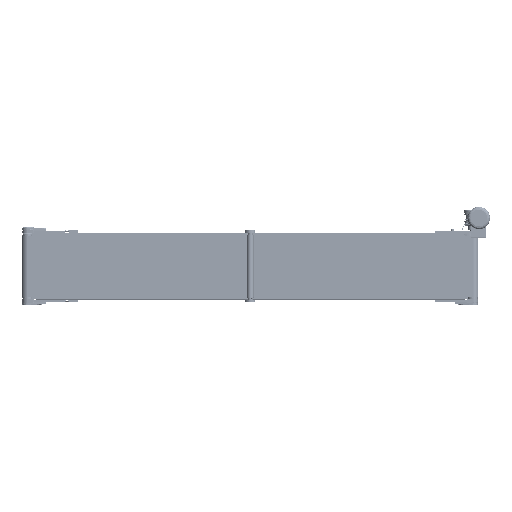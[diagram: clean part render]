
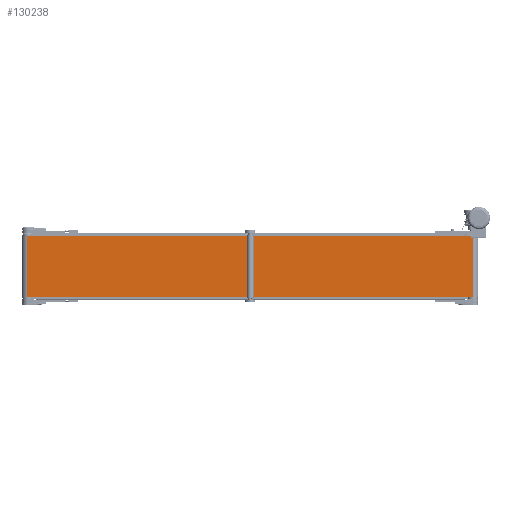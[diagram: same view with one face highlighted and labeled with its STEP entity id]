
A CAD part, front view. The second image highlights one B-rep face of the part: STEP entity #130238.
In plain terms, the highlighted planar face has unit normal (0, -1, 0).
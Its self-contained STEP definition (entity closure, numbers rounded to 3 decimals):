
#2149 = VERTEX_POINT ( 'NONE', #135226 ) ;
#6905 = PLANE ( 'NONE',  #81599 ) ;
#29272 = LINE ( 'NONE', #58506, #143280 ) ;
#30676 = EDGE_CURVE ( 'NONE', #57233, #75395, #29272, .T. ) ;
#32887 = CARTESIAN_POINT ( 'NONE',  ( -1100., -27., -150. ) ) ;
#33544 = VERTEX_POINT ( 'NONE', #112748 ) ;
#34562 = DIRECTION ( 'NONE',  ( 0., 1., 0. ) ) ;
#36317 = EDGE_CURVE ( 'NONE', #57233, #33544, #75444, .T. ) ;
#38034 = VECTOR ( 'NONE', #95184, 1000. ) ;
#48688 = DIRECTION ( 'NONE',  ( 1., 0., 0. ) ) ;
#57233 = VERTEX_POINT ( 'NONE', #69151 ) ;
#57860 = FACE_OUTER_BOUND ( 'NONE', #134316, .T. ) ;
#58506 = CARTESIAN_POINT ( 'NONE',  ( -1100., -27., 150. ) ) ;
#60543 = EDGE_CURVE ( 'NONE', #33544, #2149, #107289, .T. ) ;
#69151 = CARTESIAN_POINT ( 'NONE',  ( -1100., -27., 150. ) ) ;
#73312 = VECTOR ( 'NONE', #48688, 1000. ) ;
#75395 = VERTEX_POINT ( 'NONE', #132250 ) ;
#75444 = LINE ( 'NONE', #168706, #73312 ) ;
#81599 = AXIS2_PLACEMENT_3D ( 'NONE', #153694, #34562, #98442 ) ;
#82930 = ORIENTED_EDGE ( 'NONE', *, *, #149292, .T. ) ;
#95184 = DIRECTION ( 'NONE',  ( 0., 0., -1. ) ) ;
#95293 = ORIENTED_EDGE ( 'NONE', *, *, #60543, .F. ) ;
#98442 = DIRECTION ( 'NONE',  ( 0., 0., 1. ) ) ;
#107289 = LINE ( 'NONE', #160820, #38034 ) ;
#107799 = DIRECTION ( 'NONE',  ( 0., 0., -1. ) ) ;
#111726 = ORIENTED_EDGE ( 'NONE', *, *, #30676, .T. ) ;
#112252 = DIRECTION ( 'NONE',  ( 1., 0., 0. ) ) ;
#112748 = CARTESIAN_POINT ( 'NONE',  ( 1100., -27., 150. ) ) ;
#130238 = ADVANCED_FACE ( 'NONE', ( #57860 ), #6905, .F. ) ;
#132250 = CARTESIAN_POINT ( 'NONE',  ( -1100., -27., -150. ) ) ;
#134316 = EDGE_LOOP ( 'NONE', ( #82930, #95293, #147593, #111726 ) ) ;
#135226 = CARTESIAN_POINT ( 'NONE',  ( 1100., -27., -150. ) ) ;
#136136 = VECTOR ( 'NONE', #112252, 1000. ) ;
#143280 = VECTOR ( 'NONE', #107799, 1000. ) ;
#147593 = ORIENTED_EDGE ( 'NONE', *, *, #36317, .F. ) ;
#149292 = EDGE_CURVE ( 'NONE', #75395, #2149, #154556, .T. ) ;
#153694 = CARTESIAN_POINT ( 'NONE',  ( -1100., -27., 150. ) ) ;
#154556 = LINE ( 'NONE', #32887, #136136 ) ;
#160820 = CARTESIAN_POINT ( 'NONE',  ( 1100., -27., 150. ) ) ;
#168706 = CARTESIAN_POINT ( 'NONE',  ( -1100., -27., 150. ) ) ;
